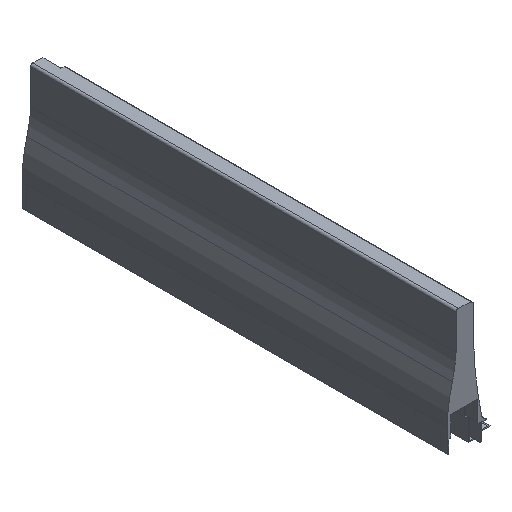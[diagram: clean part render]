
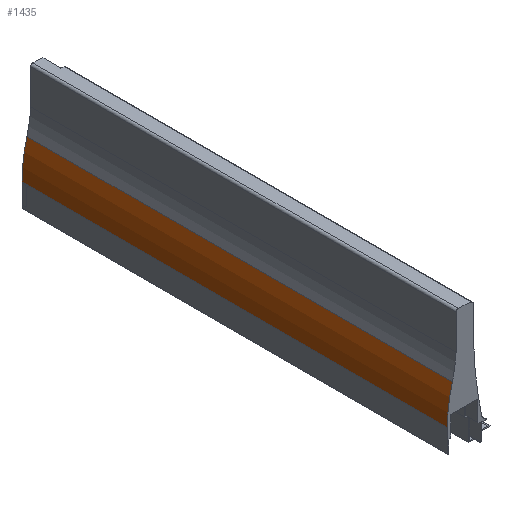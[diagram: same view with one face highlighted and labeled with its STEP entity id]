
A CAD part, isometric view. The second image highlights one B-rep face of the part: STEP entity #1435.
In plain terms, the highlighted cylindrical face has radius 130.3 mm (diameter 260.6 mm), a partial arc.
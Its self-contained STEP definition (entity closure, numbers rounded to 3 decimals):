
#520 = DIRECTION ( 'NONE',  ( -1., 0., 0. ) ) ;
#555 = DIRECTION ( 'NONE',  ( 0., -1., 0. ) ) ;
#556 = CARTESIAN_POINT ( 'NONE',  ( 126.2, 390., -7.695 ) ) ;
#706 = CARTESIAN_POINT ( 'NONE',  ( -4.1, 390., -7.695 ) ) ;
#715 = DIRECTION ( 'NONE',  ( 0., -1., 0. ) ) ;
#889 = CARTESIAN_POINT ( 'NONE',  ( 0.401, 390., 26.255 ) ) ;
#892 = CARTESIAN_POINT ( 'NONE',  ( -4.1, 390., -7.695 ) ) ;
#901 = CARTESIAN_POINT ( 'NONE',  ( -4.1, 0., -7.695 ) ) ;
#902 = CARTESIAN_POINT ( 'NONE',  ( 0.401, 0., 26.255 ) ) ;
#1074 = VERTEX_POINT ( 'NONE', #901 ) ;
#1075 = VERTEX_POINT ( 'NONE', #902 ) ;
#1144 = VERTEX_POINT ( 'NONE', #889 ) ;
#1147 = VERTEX_POINT ( 'NONE', #892 ) ;
#1188 = CARTESIAN_POINT ( 'NONE',  ( 126.2, 0., -7.695 ) ) ;
#1189 = DIRECTION ( 'NONE',  ( 0., -1., 0. ) ) ;
#1190 = DIRECTION ( 'NONE',  ( 1., 0., 0. ) ) ;
#1435 = ADVANCED_FACE ( 'NONE', ( #2837 ), #2842, .T. ) ;
#1516 = DIRECTION ( 'NONE',  ( 0., -1., 0. ) ) ;
#1588 = EDGE_LOOP ( 'NONE', ( #1767, #1766, #1773, #1772 ) ) ;
#1766 = ORIENTED_EDGE ( 'NONE', *, *, #3349, .F. ) ;
#1767 = ORIENTED_EDGE ( 'NONE', *, *, #3044, .F. ) ;
#1772 = ORIENTED_EDGE ( 'NONE', *, *, #2944, .T. ) ;
#1773 = ORIENTED_EDGE ( 'NONE', *, *, #3311, .T. ) ;
#2354 = VECTOR ( 'NONE', #1516, 1000. ) ;
#2358 = LINE ( 'NONE', #3019, #2354 ) ;
#2396 = CIRCLE ( 'NONE', #3529, 130.3 ) ;
#2642 = CIRCLE ( 'NONE', #3417, 130.3 ) ;
#2704 = VECTOR ( 'NONE', #715, 1000. ) ;
#2712 = LINE ( 'NONE', #706, #2704 ) ;
#2837 = FACE_OUTER_BOUND ( 'NONE', #1588, .T. ) ;
#2842 = CYLINDRICAL_SURFACE ( 'NONE', #3456, 130.3 ) ;
#2944 = EDGE_CURVE ( 'NONE', #1147, #1074, #2712, .T. ) ;
#2959 = CARTESIAN_POINT ( 'NONE',  ( 126.2, 390., -7.695 ) ) ;
#2967 = DIRECTION ( 'NONE',  ( 0., -1., 0. ) ) ;
#2968 = DIRECTION ( 'NONE',  ( 1., 0., 0. ) ) ;
#3019 = CARTESIAN_POINT ( 'NONE',  ( 0.401, 390., 26.255 ) ) ;
#3044 = EDGE_CURVE ( 'NONE', #1075, #1074, #2642, .T. ) ;
#3311 = EDGE_CURVE ( 'NONE', #1144, #1147, #2396, .T. ) ;
#3349 = EDGE_CURVE ( 'NONE', #1144, #1075, #2358, .T. ) ;
#3417 = AXIS2_PLACEMENT_3D ( 'NONE', #1188, #1189, #1190 ) ;
#3456 = AXIS2_PLACEMENT_3D ( 'NONE', #556, #555, #520 ) ;
#3529 = AXIS2_PLACEMENT_3D ( 'NONE', #2959, #2967, #2968 ) ;
